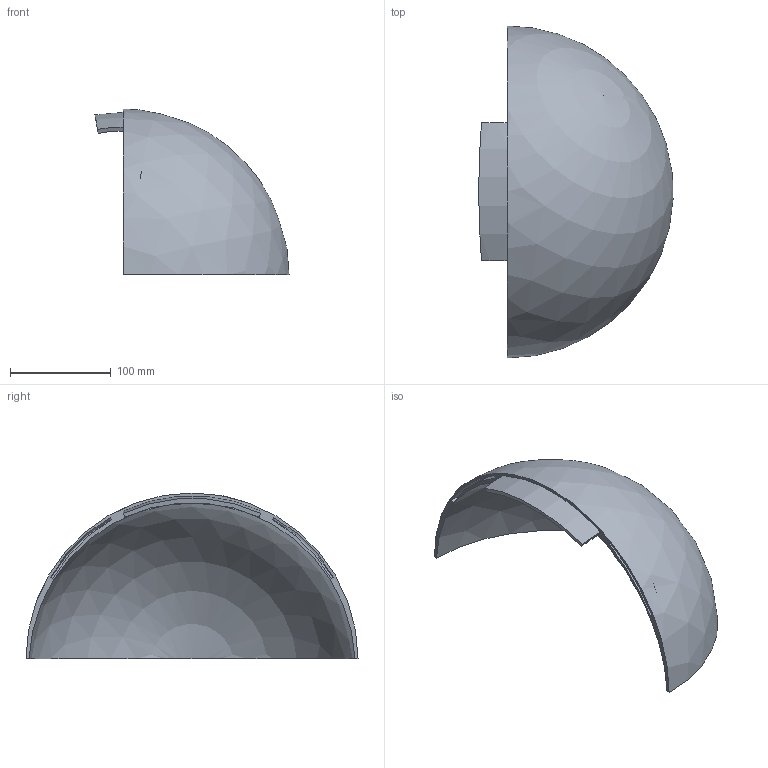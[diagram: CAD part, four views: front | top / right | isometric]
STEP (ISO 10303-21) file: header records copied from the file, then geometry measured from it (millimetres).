
FILE_DESCRIPTION(/* description */ (''),/* implementation_level */ '2;1');
FILE_NAME(/* name */ 'C:/Users/Rasika Jadhav/Downloads/Mission 2 FLoatSat/test bed new v9.step',/* time_stamp */ '2022-05-16T03:04:59+02:00',/* author */ (''),/* organization */ (''),/* preprocessor_version */ 'ST-DEVELOPER v18.1',/* originating_system */ 'Autodesk Translation Framework v10.14.0.1471',/* authorisation */ '');
FILE_SCHEMA (('AUTOMOTIVE_DESIGN { 1 0 10303 214 3 1 1 }'));
Length unit declared in the file: millimetre
Products named in the file (1): test bed new
Bounding box: 192.89 x 330 x 165 mm (x, y, z)
Volume: 543235.8 mm3; surface area: 184417.8 mm2
Topology: 1 solids, 1 shells, 19 faces, 45 edges, 30 vertices
Faces by surface type: sphere 8, cone 6, plane 5
Entity records: 604 total; most frequent: DIRECTION 114, CARTESIAN_POINT 94, ORIENTED_EDGE 88, AXIS2_PLACEMENT_3D 50, EDGE_CURVE 44, CIRCLE 30, VERTEX_POINT 30, EDGE_LOOP 22
